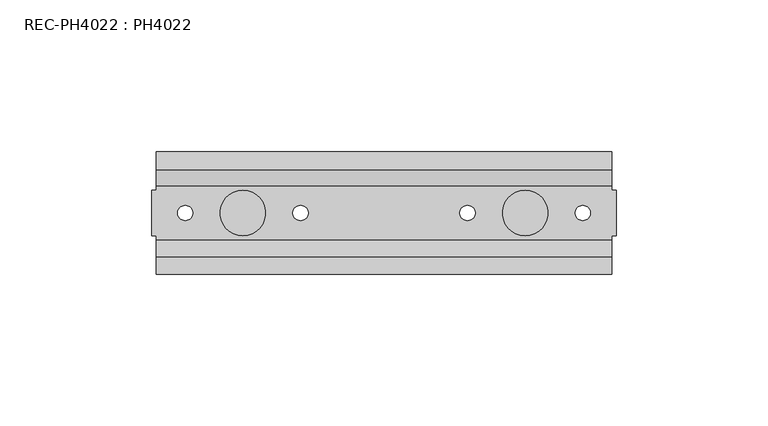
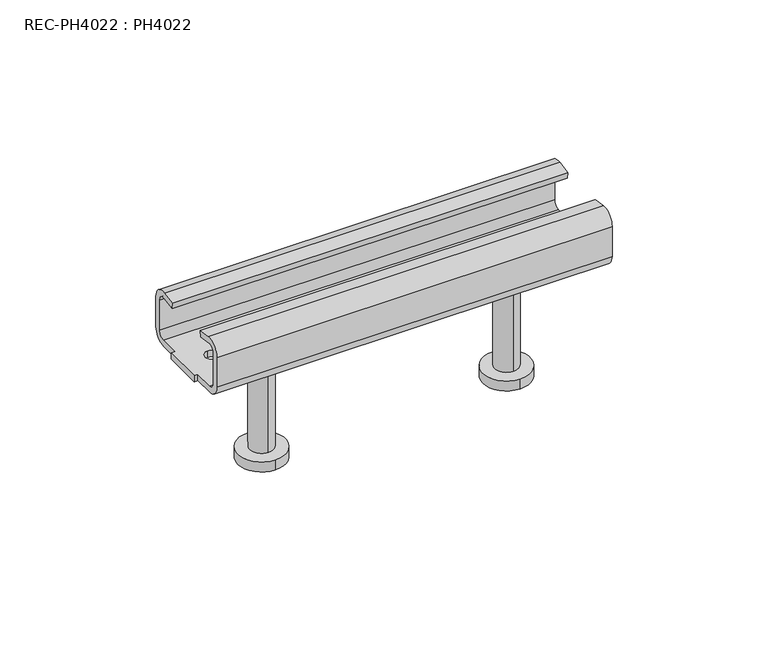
"""IFC4 building model written with IfcOpenShell, lengths in millimetres: fastener geometry, REC-PH4022 : PH4022."""

from ifc_helpers import new_model, si_unit, point, frame, frame_2d, origin, place, context, project, spatial, polyline, circle_curve, trimmed, segment, composite_curve, outline, extrude, source, transform, mapped, element, save
from ifc_brep_helpers import plane_surface, cylinder_surface, revolved_surface, advanced_brep


def rec_ph4022_ph4022_520e7247(model_context):
    return source(origin(), model_context, "Body", "SolidModel", [
        extrude(outline(composite_curve([segment(trimmed(circle_curve(frame_2d((46.5, 0.0)), 7.5), [point((46.5, -7.5))], [point((46.5, 7.5))], False, "CARTESIAN"), True, "CONTINUOUS"), segment(trimmed(circle_curve(frame_2d((46.5, 0.0)), 7.5), [point((46.5, 7.5))], [point((46.5, -7.5))], False, "CARTESIAN"), True, "CONTINUOUS")], self_intersect=False)), frame((0.0, 0.0, -19.5748058), z_axis=(0.0, 0.0, 1.0), x_axis=(1.0, 0.0, 0.0)), (0.0, 0.0, 1.0), 3.5),
        extrude(outline(composite_curve([segment(trimmed(circle_curve(frame_2d((46.5, 0.0)), 9.0), [point((46.5, -9.0))], [point((46.5, 9.0))], False, "CARTESIAN"), True, "CONTINUOUS"), segment(trimmed(circle_curve(frame_2d((46.5, 0.0)), 9.0), [point((46.5, 9.0))], [point((46.5, -9.0))], False, "CARTESIAN"), True, "CONTINUOUS")], self_intersect=False)), frame((0.0, 0.0, -67.0748058), z_axis=(0.0, 0.0, 1.0), x_axis=(1.0, 0.0, 0.0)), (0.0, 0.0, 1.0), 4.0),
        extrude(outline(composite_curve([segment(trimmed(circle_curve(frame_2d((46.5, 0.0)), 4.5), [point((46.5, 4.5))], [point((46.5, -4.5))], False, "CARTESIAN"), True, "CONTINUOUS"), segment(trimmed(circle_curve(frame_2d((46.5, 0.0)), 4.5), [point((46.5, -4.5))], [point((46.5, 4.5))], False, "CARTESIAN"), True, "CONTINUOUS")], self_intersect=False)), frame((0.0, 0.0, -63.0748058), z_axis=(0.0, 0.0, 1.0), x_axis=(1.0, 0.0, 0.0)), (0.0, 0.0, 1.0), 41.0),
        extrude(outline(composite_curve([segment(trimmed(circle_curve(frame_2d((-46.5, 0.0)), 7.5), [point((-46.5, -7.5))], [point((-46.5, 7.5))], False, "CARTESIAN"), True, "CONTINUOUS"), segment(trimmed(circle_curve(frame_2d((-46.5, 0.0)), 7.5), [point((-46.5, 7.5))], [point((-46.5, -7.5))], False, "CARTESIAN"), True, "CONTINUOUS")], self_intersect=False)), frame((0.0, 0.0, -19.5748058), z_axis=(0.0, 0.0, 1.0), x_axis=(1.0, 0.0, 0.0)), (0.0, 0.0, 1.0), 3.5),
        extrude(outline(composite_curve([segment(trimmed(circle_curve(frame_2d((-46.5, 0.0)), 9.0), [point((-46.5, -9.0))], [point((-46.5, 9.0))], False, "CARTESIAN"), True, "CONTINUOUS"), segment(trimmed(circle_curve(frame_2d((-46.5, 0.0)), 9.0), [point((-46.5, 9.0))], [point((-46.5, -9.0))], False, "CARTESIAN"), True, "CONTINUOUS")], self_intersect=False)), frame((0.0, 0.0, -67.0748058), z_axis=(0.0, 0.0, 1.0), x_axis=(1.0, 0.0, 0.0)), (0.0, 0.0, 1.0), 4.0),
        extrude(outline(composite_curve([segment(trimmed(circle_curve(frame_2d((-46.5, 0.0)), 4.5), [point((-46.5, 4.5))], [point((-46.5, -4.5))], False, "CARTESIAN"), True, "CONTINUOUS"), segment(trimmed(circle_curve(frame_2d((-46.5, 0.0)), 4.5), [point((-46.5, -4.5))], [point((-46.5, 4.5))], False, "CARTESIAN"), True, "CONTINUOUS")], self_intersect=False)), frame((0.0, 0.0, -63.0748058), z_axis=(0.0, 0.0, 1.0), x_axis=(1.0, 0.0, 0.0)), (0.0, 0.0, 1.0), 41.0),
        advanced_brep(
        [(76.5, -7.5, -19.5748058), (76.5, -7.5, -22.0748058), (76.5, 7.5, -22.0748058), (76.5, 7.5, -19.5748058), (-76.5, -7.5, -22.0748058), (-76.5, -7.5, -19.5748058), (-76.5, 7.5, -19.5748058), (-76.5, 7.5, -22.0748058), (75.0, -9.0, -1.0), (75.0, -9.3971276, -3.4682564), (-75.0, -9.3971276, -3.4682564), (-75.0, -9.0, -1.0), (75.0, -14.3557449, -0.138293), (-75.0, -14.3557449, -0.138293), (75.0, -20.15, -5.0748058), (-75.0, -20.15, -5.0748058), (75.0, -20.15, -17.0748058), (-75.0, -20.15, -17.0748058), (75.0, -15.15, -22.0748058), (-75.0, -15.15, -22.0748058), (75.0, -7.5, -22.0748058), (-75.0, -7.5, -22.0748058), (-75.0, 7.5, -22.0748058), (-75.0, 15.15, -22.0748058), (75.0, 15.15, -22.0748058), (75.0, 7.5, -22.0748058), (65.5, -2.5, -22.0748058), (65.5, 2.5, -22.0748058), (27.5, -2.5, -22.0748058), (27.5, 2.5, -22.0748058), (-27.5, -2.5, -22.0748058), (-27.5, 2.5, -22.0748058), (-65.5, -2.5, -22.0748058), (-65.5, 2.5, -22.0748058), (46.5, 2.5, -22.0748058), (46.5, -2.5, -22.0748058), (-46.5, -2.5, -22.0748058), (-46.5, 2.5, -22.0748058), (75.0, 20.15, -17.0748058), (-75.0, 20.15, -17.0748058), (75.0, 20.15, -5.0), (-75.0, 20.15, -5.0), (75.0, 14.2883377, -0.0748058), (-75.0, 14.2883377, -0.0748058), (75.0, 9.0, -1.0), (-75.0, 9.0, -1.0), (75.0, 9.4308311, -3.4625971), (-75.0, 9.4308311, -3.4625971), (75.0, 14.7191689, -2.5374029), (-75.0, 14.7191689, -2.5374029), (75.0, 17.65, -5.0), (-75.0, 17.65, -5.0), (75.0, 17.65, -17.0748058), (-75.0, 17.65, -17.0748058), (75.0, 15.15, -19.5748058), (-75.0, 15.15, -19.5748058), (75.0, -15.15, -19.5748058), (75.0, -7.5, -19.5748058), (75.0, 7.5, -19.5748058), (-75.0, 7.5, -19.5748058), (-75.0, -7.5, -19.5748058), (-75.0, -15.15, -19.5748058), (65.5, 2.5, -19.5748058), (65.5, -2.5, -19.5748058), (27.5, 2.5, -19.5748058), (27.5, -2.5, -19.5748058), (-27.5, 2.5, -19.5748058), (-27.5, -2.5, -19.5748058), (-65.5, 2.5, -19.5748058), (-65.5, -2.5, -19.5748058), (46.5, -2.5, -19.5748058), (46.5, 2.5, -19.5748058), (-46.5, 2.5, -19.5748058), (-46.5, -2.5, -19.5748058), (75.0, -17.65, -17.0748058), (-75.0, -17.65, -17.0748058), (75.0, -17.65, -5.0748058), (-75.0, -17.65, -5.0748058), (75.0, -14.7528724, -2.6065494), (-75.0, -14.7528724, -2.6065494)],
        [
            (0, 1),
            (1, 2),
            (2, 3),
            (3, 0),
            (4, 5),
            (5, 6),
            (6, 7),
            (7, 4),
            (8, 9),
            (9, 10),
            (10, 11),
            (11, 8),
            (12, 8),
            (11, 13),
            (13, 12),
            (14, 12, circle_curve(frame((75.0, -15.15, -5.0748058), z_axis=(-1.0, 0.0, 0.0), x_axis=(0.0, 1.0, 0.0)), 5.0)),
            (13, 15, circle_curve(frame((-75.0, -15.15, -5.0748058), z_axis=(1.0, 0.0, 0.0), x_axis=(0.0, 1.0, 0.0)), 5.0)),
            (15, 14),
            (16, 14),
            (15, 17),
            (17, 16),
            (18, 16, circle_curve(frame((75.0, -15.15, -17.0748058), z_axis=(-1.0, 0.0, 0.0), x_axis=(0.0, 1.0, 0.0)), 5.0)),
            (17, 19, circle_curve(frame((-75.0, -15.15, -17.0748058), z_axis=(1.0, 0.0, 0.0), x_axis=(0.0, 1.0, 0.0)), 5.0)),
            (19, 18),
            (20, 18),
            (19, 21),
            (21, 4),
            (7, 22),
            (22, 23),
            (23, 24),
            (24, 25),
            (25, 2),
            (1, 20),
            (26, 27, circle_curve(frame((65.5, 0.0, -22.0748058), z_axis=(0.0, 0.0, 1.0), x_axis=(0.0, 1.0, 0.0)), 2.5)),
            (27, 26, circle_curve(frame((65.5, 0.0, -22.0748058), z_axis=(0.0, 0.0, 1.0), x_axis=(0.0, 1.0, 0.0)), 2.5)),
            (28, 29, circle_curve(frame((27.5, 0.0, -22.0748058), z_axis=(0.0, 0.0, 1.0), x_axis=(0.0, 1.0, 0.0)), 2.5)),
            (29, 28, circle_curve(frame((27.5, 0.0, -22.0748058), z_axis=(0.0, 0.0, 1.0), x_axis=(0.0, 1.0, 0.0)), 2.5)),
            (30, 31, circle_curve(frame((-27.5, 0.0, -22.0748058), z_axis=(0.0, 0.0, 1.0), x_axis=(0.0, 1.0, 0.0)), 2.5)),
            (31, 30, circle_curve(frame((-27.5, 0.0, -22.0748058), z_axis=(0.0, 0.0, 1.0), x_axis=(0.0, 1.0, 0.0)), 2.5)),
            (32, 33, circle_curve(frame((-65.5, 0.0, -22.0748058), z_axis=(0.0, 0.0, 1.0), x_axis=(0.0, 1.0, 0.0)), 2.5)),
            (33, 32, circle_curve(frame((-65.5, 0.0, -22.0748058), z_axis=(0.0, 0.0, 1.0), x_axis=(0.0, 1.0, 0.0)), 2.5)),
            (34, 35, circle_curve(frame((46.5, 0.0, -22.0748058), z_axis=(0.0, 0.0, 1.0), x_axis=(0.0, 1.0, 0.0)), 2.5)),
            (35, 34, circle_curve(frame((46.5, 0.0, -22.0748058), z_axis=(0.0, 0.0, 1.0), x_axis=(0.0, 1.0, 0.0)), 2.5)),
            (36, 37, circle_curve(frame((-46.5, 0.0, -22.0748058), z_axis=(0.0, 0.0, 1.0), x_axis=(0.0, 1.0, 0.0)), 2.5)),
            (37, 36, circle_curve(frame((-46.5, 0.0, -22.0748058), z_axis=(0.0, 0.0, 1.0), x_axis=(0.0, 1.0, 0.0)), 2.5)),
            (38, 24, circle_curve(frame((75.0, 15.15, -17.0748058), z_axis=(-1.0, 0.0, 0.0), x_axis=(0.0, 1.0, 0.0)), 5.0)),
            (23, 39, circle_curve(frame((-75.0, 15.15, -17.0748058), z_axis=(1.0, 0.0, 0.0), x_axis=(0.0, 1.0, 0.0)), 5.0)),
            (39, 38),
            (40, 38),
            (39, 41),
            (41, 40),
            (42, 40, circle_curve(frame((75.0, 15.15, -5.0), z_axis=(-1.0, 0.0, 0.0), x_axis=(0.0, 1.0, 0.0)), 5.0)),
            (41, 43, circle_curve(frame((-75.0, 15.15, -5.0), z_axis=(1.0, 0.0, 0.0), x_axis=(0.0, 1.0, 0.0)), 5.0)),
            (43, 42),
            (44, 42),
            (43, 45),
            (45, 44),
            (46, 44),
            (45, 47),
            (47, 46),
            (48, 46),
            (47, 49),
            (49, 48),
            (50, 48, circle_curve(frame((75.0, 15.15, -5.0), z_axis=(1.0, 0.0, 0.0), x_axis=(0.0, 1.0, 0.0)), 2.5)),
            (49, 51, circle_curve(frame((-75.0, 15.15, -5.0), z_axis=(-1.0, 0.0, 0.0), x_axis=(0.0, 1.0, 0.0)), 2.5)),
            (51, 50),
            (52, 50),
            (51, 53),
            (53, 52),
            (54, 52, circle_curve(frame((75.0, 15.15, -17.0748058), z_axis=(1.0, 0.0, 0.0), x_axis=(0.0, 1.0, 0.0)), 2.5)),
            (53, 55, circle_curve(frame((-75.0, 15.15, -17.0748058), z_axis=(-1.0, 0.0, 0.0), x_axis=(0.0, 1.0, 0.0)), 2.5)),
            (55, 54),
            (56, 57),
            (57, 0),
            (3, 58),
            (58, 54),
            (55, 59),
            (59, 6),
            (5, 60),
            (60, 61),
            (61, 56),
            (62, 63, circle_curve(frame((65.5, 0.0, -19.5748058), z_axis=(0.0, 0.0, -1.0), x_axis=(0.0, 1.0, 0.0)), 2.5)),
            (63, 62, circle_curve(frame((65.5, 0.0, -19.5748058), z_axis=(0.0, 0.0, -1.0), x_axis=(0.0, 1.0, 0.0)), 2.5)),
            (64, 65, circle_curve(frame((27.5, 0.0, -19.5748058), z_axis=(0.0, 0.0, -1.0), x_axis=(0.0, 1.0, 0.0)), 2.5)),
            (65, 64, circle_curve(frame((27.5, 0.0, -19.5748058), z_axis=(0.0, 0.0, -1.0), x_axis=(0.0, 1.0, 0.0)), 2.5)),
            (66, 67, circle_curve(frame((-27.5, 0.0, -19.5748058), z_axis=(0.0, 0.0, -1.0), x_axis=(0.0, 1.0, 0.0)), 2.5)),
            (67, 66, circle_curve(frame((-27.5, 0.0, -19.5748058), z_axis=(0.0, 0.0, -1.0), x_axis=(0.0, 1.0, 0.0)), 2.5)),
            (68, 69, circle_curve(frame((-65.5, 0.0, -19.5748058), z_axis=(0.0, 0.0, -1.0), x_axis=(0.0, 1.0, 0.0)), 2.5)),
            (69, 68, circle_curve(frame((-65.5, 0.0, -19.5748058), z_axis=(0.0, 0.0, -1.0), x_axis=(0.0, 1.0, 0.0)), 2.5)),
            (70, 71, circle_curve(frame((46.5, 0.0, -19.5748058), z_axis=(0.0, 0.0, -1.0), x_axis=(0.0, 1.0, 0.0)), 2.5)),
            (71, 70, circle_curve(frame((46.5, 0.0, -19.5748058), z_axis=(0.0, 0.0, -1.0), x_axis=(0.0, 1.0, 0.0)), 2.5)),
            (72, 73, circle_curve(frame((-46.5, 0.0, -19.5748058), z_axis=(0.0, 0.0, -1.0), x_axis=(0.0, 1.0, 0.0)), 2.5)),
            (73, 72, circle_curve(frame((-46.5, 0.0, -19.5748058), z_axis=(0.0, 0.0, -1.0), x_axis=(0.0, 1.0, 0.0)), 2.5)),
            (74, 56, circle_curve(frame((75.0, -15.15, -17.0748058), z_axis=(1.0, 0.0, 0.0), x_axis=(0.0, 1.0, 0.0)), 2.5)),
            (61, 75, circle_curve(frame((-75.0, -15.15, -17.0748058), z_axis=(-1.0, 0.0, 0.0), x_axis=(0.0, 1.0, 0.0)), 2.5)),
            (75, 74),
            (76, 74),
            (75, 77),
            (77, 76),
            (78, 76, circle_curve(frame((75.0, -15.15, -5.0748058), z_axis=(1.0, 0.0, 0.0), x_axis=(0.0, 1.0, 0.0)), 2.5)),
            (77, 79, circle_curve(frame((-75.0, -15.15, -5.0748058), z_axis=(-1.0, 0.0, 0.0), x_axis=(0.0, 1.0, 0.0)), 2.5)),
            (79, 78),
            (9, 78),
            (79, 10),
            (20, 57),
            (58, 25),
            (60, 21),
            (22, 59),
            (26, 63),
            (62, 27),
            (28, 65),
            (64, 29),
            (30, 67),
            (66, 31),
            (32, 69),
            (68, 33),
            (34, 71),
            (70, 35),
            (36, 73),
            (72, 37),
        ],
        [
            plane_surface(frame((76.5, -9.0, -1.0), z_axis=(1.0, 0.0, 0.0), x_axis=(0.0, 0.1588510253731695, 0.9873025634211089))),
            plane_surface(frame((-76.5, -9.0, -1.0), z_axis=(-1.0, 0.0, 0.0), x_axis=(0.0, -0.1588510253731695, -0.9873025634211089))),
            plane_surface(frame((76.5, -9.3971276, -3.4682564), z_axis=(0.0, 0.9873025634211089, -0.1588510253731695), x_axis=(-1.0, 0.0, 0.0))),
            plane_surface(frame((76.5, -9.0, -1.0), z_axis=(0.0, 0.158851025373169, 0.987302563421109), x_axis=(-1.0, 0.0, 0.0))),
            cylinder_surface(frame((-76.5, -15.15, -5.0748058), z_axis=(1.0, 0.0, 0.0), x_axis=(0.0, 1.0, 0.0)), 5.0),
            plane_surface(frame((76.5, -20.15, -5.0748058), z_axis=(0.0, -1.0, 0.0), x_axis=(-1.0, 0.0, 0.0))),
            cylinder_surface(frame((-76.5, -15.15, -17.0748058), z_axis=(1.0, 0.0, 0.0), x_axis=(0.0, 1.0, 0.0)), 5.0),
            plane_surface(frame((76.5, -15.15, -22.0748058), z_axis=(0.0, 0.0, -1.0), x_axis=(-1.0, 0.0, 0.0))),
            cylinder_surface(frame((-76.5, 15.15, -17.0748058), z_axis=(1.0, 0.0, 0.0), x_axis=(0.0, 1.0, 0.0)), 5.0),
            plane_surface(frame((76.5, 20.15, -17.0748058), z_axis=(0.0, 1.0, 0.0), x_axis=(-1.0, 0.0, 0.0))),
            cylinder_surface(frame((-76.5, 15.15, -5.0), z_axis=(1.0, 0.0, 0.0), x_axis=(0.0, 1.0, 0.0)), 5.0),
            plane_surface(frame((76.5, 14.2883377, -0.0748058), z_axis=(0.0, -0.17233245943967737, 0.9850388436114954), x_axis=(-1.0, 0.0, 0.0))),
            plane_surface(frame((76.5, 9.0, -1.0), z_axis=(0.0, -0.9850388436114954, -0.172332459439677), x_axis=(-1.0, 0.0, 0.0))),
            plane_surface(frame((76.5, 9.4308311, -3.4625971), z_axis=(0.0, 0.17233245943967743, -0.9850388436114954), x_axis=(-1.0, 0.0, 0.0))),
            revolved_surface(polyline([(-75.0, 17.65, -5.0), (75.0, 17.65, -5.0)]), (-76.5, 15.15, -5.0), (-1.0, 0.0, 0.0)),
            plane_surface(frame((76.5, 17.65, -5.0), z_axis=(0.0, -1.0, 0.0), x_axis=(-1.0, 0.0, 0.0))),
            revolved_surface(polyline([(-75.0, 17.65, -17.0748058), (75.0, 17.65, -17.0748058)]), (-76.5, 15.15, -17.0748058), (-1.0, 0.0, 0.0)),
            plane_surface(frame((76.5, 15.15, -19.5748058), z_axis=(0.0, 0.0, 1.0), x_axis=(-1.0, 0.0, 0.0))),
            revolved_surface(polyline([(-75.0, -12.65, -17.0748058), (75.0, -12.65, -17.0748058)]), (-76.5, -15.15, -17.0748058), (-1.0, 0.0, 0.0)),
            plane_surface(frame((76.5, -17.65, -17.0748058), z_axis=(0.0, 1.0, 0.0), x_axis=(-1.0, 0.0, 0.0))),
            revolved_surface(polyline([(-75.0, -12.65, -5.0748058), (75.0, -12.65, -5.0748058)]), (-76.5, -15.15, -5.0748058), (-1.0, 0.0, 0.0)),
            plane_surface(frame((76.5, -14.7528724, -2.6065494), z_axis=(0.0, -0.15885102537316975, -0.9873025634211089), x_axis=(-1.0, 0.0, 0.0))),
            plane_surface(frame((75.0, -7.5, 0.824427), z_axis=(1.0, 0.0, 0.0), x_axis=(0.0, 0.0, -1.0))),
            plane_surface(frame((76.5, -7.5, 0.824427), z_axis=(0.0, -1.0, 0.0), x_axis=(0.0, 0.0, -1.0))),
            plane_surface(frame((75.0, 20.15, 0.824427), z_axis=(1.0, 0.0, 0.0), x_axis=(0.0, 0.0, -1.0))),
            plane_surface(frame((75.0, 7.5, 0.824427), z_axis=(0.0, 1.0, 0.0), x_axis=(0.0, 0.0, -1.0))),
            plane_surface(frame((-75.0, -20.15, 0.824427), z_axis=(-1.0, 0.0, 0.0), x_axis=(0.0, 0.0, -1.0))),
            plane_surface(frame((-75.0, -7.5, 0.824427), z_axis=(0.0, -1.0, 0.0), x_axis=(0.0, 0.0, -1.0))),
            plane_surface(frame((-75.0, 7.5, 0.824427), z_axis=(-1.0, 0.0, 0.0), x_axis=(0.0, 0.0, -1.0))),
            plane_surface(frame((-76.5, 7.5, 0.824427), z_axis=(0.0, 1.0, 0.0), x_axis=(0.0, 0.0, -1.0))),
            revolved_surface(polyline([(65.5, 2.5, -22.0748058), (65.5, 2.5, -19.5748058)]), (65.5, 0.0, -19.5748058), (0.0, 0.0, -1.0)),
            revolved_surface(polyline([(27.5, 2.5, -22.0748058), (27.5, 2.5, -19.5748058)]), (27.5, 0.0, -19.5748058), (0.0, 0.0, -1.0)),
            revolved_surface(polyline([(-27.5, 2.5, -22.0748058), (-27.5, 2.5, -19.5748058)]), (-27.5, 0.0, -19.5748058), (0.0, 0.0, -1.0)),
            revolved_surface(polyline([(-65.5, 2.5, -22.0748058), (-65.5, 2.5, -19.5748058)]), (-65.5, 0.0, -19.5748058), (0.0, 0.0, -1.0)),
            revolved_surface(polyline([(46.5, 2.5, -22.0748058), (46.5, 2.5, -19.5748058)]), (46.5, 0.0, -19.5748058), (0.0, 0.0, -1.0)),
            revolved_surface(polyline([(-46.5, 2.5, -22.0748058), (-46.5, 2.5, -19.5748058)]), (-46.5, 0.0, -19.5748058), (0.0, 0.0, -1.0)),
        ],
        [
            (0, [[1, 2, 3, 4]]),
            (1, [[5, 6, 7, 8]]),
            (2, [[9, 10, 11, 12]]),
            (3, [[13, -12, 14, 15]]),
            (4, [[16, -15, 17, 18]]),
            (5, [[19, -18, 20, 21]]),
            (6, [[22, -21, 23, 24]]),
            (7, [[25, -24, 26, 27, -8, 28, 29, 30, 31, 32, -2, 33], [34, 35], [36, 37], [38, 39], [40, 41], [42, 43], [44, 45]]),
            (8, [[46, -30, 47, 48]]),
            (9, [[49, -48, 50, 51]]),
            (10, [[52, -51, 53, 54]]),
            (11, [[55, -54, 56, 57]]),
            (12, [[58, -57, 59, 60]]),
            (13, [[61, -60, 62, 63]]),
            (14, [[64, -63, 65, 66]]),
            (15, [[67, -66, 68, 69]]),
            (16, [[70, -69, 71, 72]]),
            (17, [[73, 74, -4, 75, 76, -72, 77, 78, -6, 79, 80, 81], [82, 83], [84, 85], [86, 87], [88, 89], [90, 91], [92, 93]]),
            (18, [[94, -81, 95, 96]]),
            (19, [[97, -96, 98, 99]]),
            (20, [[100, -99, 101, 102]]),
            (21, [[103, -102, 104, -10]]),
            (22, [[105, -73, -94, -97, -100, -103, -9, -13, -16, -19, -22, -25]]),
            (23, [[-105, -33, -1, -74]]),
            (24, [[106, -31, -46, -49, -52, -55, -58, -61, -64, -67, -70, -76]]),
            (25, [[-106, -75, -3, -32]]),
            (26, [[107, -26, -23, -20, -17, -14, -11, -104, -101, -98, -95, -80]]),
            (27, [[-107, -79, -5, -27]]),
            (28, [[108, -77, -71, -68, -65, -62, -59, -56, -53, -50, -47, -29]]),
            (29, [[-108, -28, -7, -78]]),
            (30, [[109, -82, 110, -34]]),
            (30, [[-109, -35, -110, -83]]),
            (31, [[111, -84, 112, -36]]),
            (31, [[-111, -37, -112, -85]]),
            (32, [[113, -86, 114, -38]]),
            (32, [[-113, -39, -114, -87]]),
            (33, [[115, -88, 116, -40]]),
            (33, [[-115, -41, -116, -89]]),
            (34, [[117, -90, 118, -42]]),
            (34, [[-117, -43, -118, -91]]),
            (35, [[119, -92, 120, -44]]),
            (35, [[-119, -45, -120, -93]]),
        ],
    ),
    ])


if __name__ == "__main__":
    model = new_model("IFC4")
    model_context = context("Model", 3, world=origin())
    ifc_project = project(units=[si_unit("LENGTHUNIT", "METRE", prefix="MILLI")], contexts=[model_context])
    site = spatial("IfcSite", under=ifc_project)
    building = spatial("IfcBuilding", under=site)
    placement = place(None, origin())
    rec_ph4022_ph4022_shape = rec_ph4022_ph4022_520e7247(model_context)
    element("IfcFastener", 1, ObjectType="REC-PH4022 : PH4022", at=placement, inside=building, context=model_context, shape_type="MappedRepresentation", body=[
        mapped(rec_ph4022_ph4022_shape, transform((0.0, 0.0, 0.0), x_axis=(1.0, 0.0, 0.0), y_axis=(0.0, 1.0, 0.0), z_axis=(0.0, 0.0, 1.0))),
    ])
    save(model, "model.ifc")
